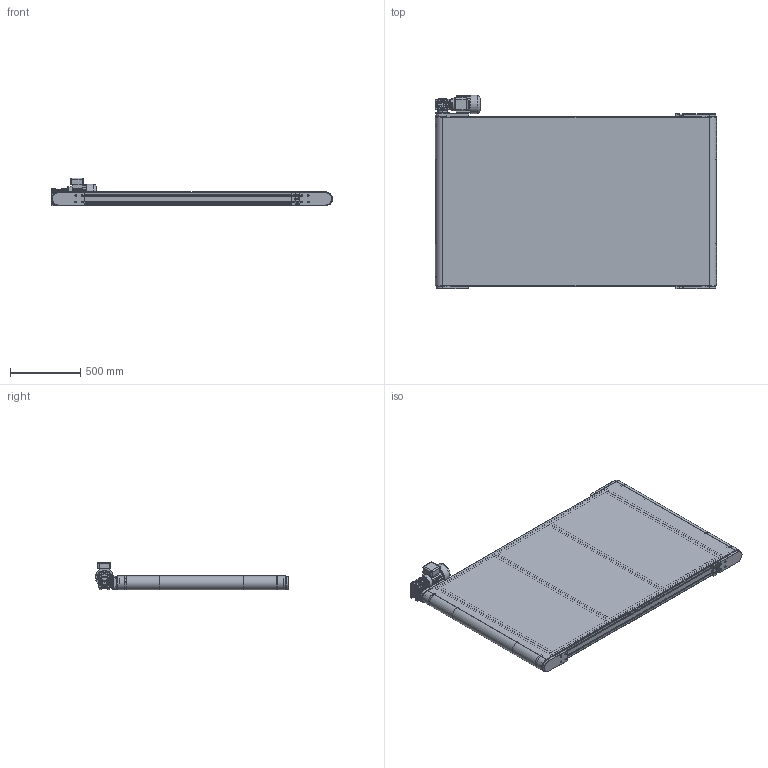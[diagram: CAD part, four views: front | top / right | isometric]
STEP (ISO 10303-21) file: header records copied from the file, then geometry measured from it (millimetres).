
FILE_DESCRIPTION (( 'STEP AP214' ), '1' );
FILE_NAME ('TB100 1200X2000 DIRECT A GAUCHE.STEP', '2022-10-11T14:58:49', ( '' ), ( '' ), 'SwSTEP 2.0', 'SolidWorks 2022', '' );
FILE_SCHEMA (( 'AUTOMOTIVE_DESIGN' ));
Length unit declared in the file: millimetre
Products named in the file (21): 905-020; CHC THE_910-052H; 985-035; 910-011; 988-001; 987-002; 988-000; 987-003; CHASSIS TB100 1200X2000_Défaut<Brut d''usinage>; 987-016; TH_910-190-30; CHC THE_910-053H; 987-008; 987-011-i10-60 droit; 987-001K8_987-001K8-1200; TH_910-190-20; 988-002; 987-000; CLAVETTE_910-212; TB100 1200X2000 DIRECT A GAUCHE; 982-012-180W
Assembly tree (40 placements, depth 3):
  TB100 1200X2000 DIRECT A GAUCHE
    CHASSIS TB100 1200X2000_Défaut<Brut d''usinage>
    988-000
      987-016
      985-035
      987-002
      CHC THE_910-053H  x4
      CLAVETTE_910-212  x2
      TH_910-190-20  x4
      905-020  x2
    988-001  x3
      987-000
      987-003
      CHC THE_910-052H
      905-020
    982-012-180W
    988-002  x2
      987-008
      CHC THE_910-052H
      910-011
      TH_910-190-30
    987-001K8_987-001K8-1200  x2
    987-011-i10-60 droit
Bounding box: 2000 x 1377.01 x 198 mm (x, y, z)
Volume: 48951950.4 mm3; surface area: 20461097.4 mm2
Topology: 63 solids, 67 shells, 2690 faces, 6869 edges, 4427 vertices
Faces by surface type: plane 1774, cone 438, cylinder 366, torus 75, bspline 37
Full cylindrical faces by diameter (mm): 3.242 x1, 4.2 x8, 6 x20, 6.8 x26, 7.3 x12, 7.98 x20, 8 x26, 9 x20, 10 x6, 11 x1, 13 x40, 15 x1, 16 x1, 18 x1, 20 x2, 25 x2, 30 x2, 37 x3, 42 x1, 45 x7, 50 x3, 54 x3, 59 x6, 60 x4, 62 x2, 71 x6, 75 x2, 82 x3, 84 x4, 85 x8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
Entity records: 57037 total; most frequent: CARTESIAN_POINT 13085, ORIENTED_EDGE 8866, DIRECTION 8153, EDGE_CURVE 4433, LINE 3031, VECTOR 3031, VERTEX_POINT 3007, AXIS2_PLACEMENT_3D 2561
